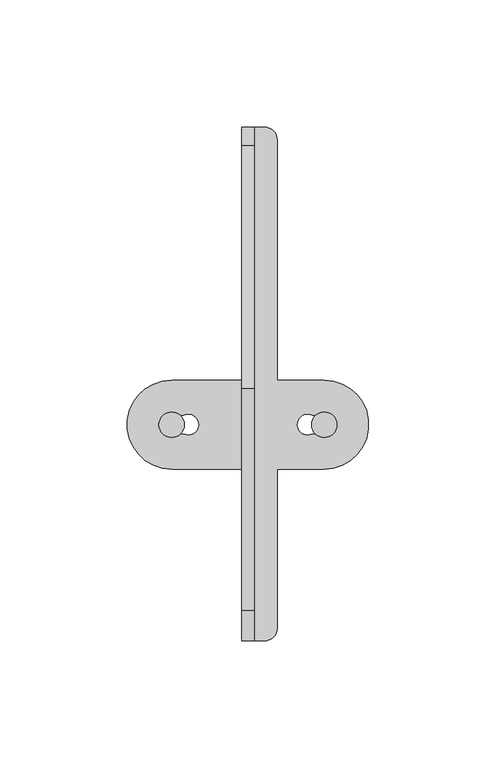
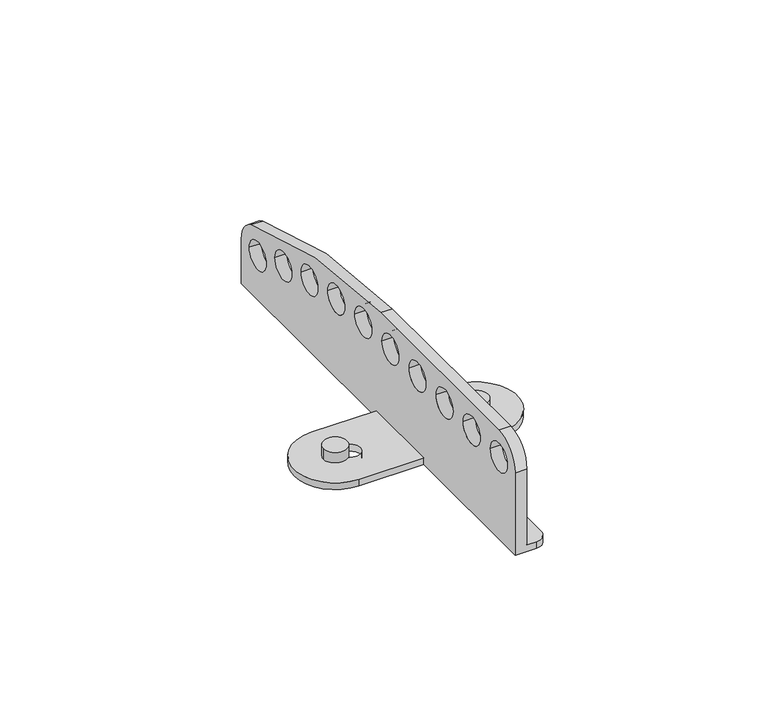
"""IFC4 building model written with IfcOpenShell, lengths in millimetres: proxy geometry, d&b E-Series E8 l E12 Flying Adapter : E8 l E12 Flying Adapter."""

from ifc_helpers import new_model, si_unit, point, frame, frame_2d, origin, place, context, project, spatial, polyline, circle_curve, trimmed, segment, composite_curve, outline, extrude, source, transform, mapped, element, save
from ifc_brep_helpers import plane_surface, cylinder_surface, revolved_surface, advanced_brep


def communication_devices_e63921f5(model_context):
    return source(origin(), model_context, "Body", "SolidModel", [
        advanced_brep(
        [(6.5, -85.0, 3.0), (11.5, -80.0, 3.0), (11.5, -17.5, 3.0), (30.0, -17.5, 3.0), (30.0, 17.5, 3.0), (11.5, 17.5, 3.0), (11.5, 112.0, 3.0), (6.5, 117.0, 3.0), (2.5, 117.0, 3.0), (2.5, -85.0, 3.0), (25.4364917, 3.5, 3.0), (31.5, 3.5, 3.0), (31.5, -3.5, 3.0), (25.4364917, -3.5, 3.0), (-2.5, 17.5, 3.0), (-30.0, 17.5, 3.0), (-30.0, -17.5, 3.0), (-2.5, -17.5, 3.0), (-25.4364917, 3.5, 3.0), (-25.4364917, -3.5, 3.0), (-31.5, -3.5, 3.0), (-31.5, 3.5, 3.0), (-2.5, -85.0, 0.0), (-2.5, -17.5, 0.0), (-30.0, -17.5, 0.0), (-30.0, 17.5, 0.0), (-2.5, 17.5, 0.0), (-2.5, 117.0, 0.0), (6.5, 117.0, 0.0), (11.5, 112.0, 0.0), (11.5, 17.5, 0.0), (30.0, 17.5, 0.0), (30.0, -17.5, 0.0), (11.5, -17.5, 0.0), (11.5, -80.0, 0.0), (6.5, -85.0, 0.0), (-25.4364917, 3.5, 0.0), (-31.5, 3.5, 0.0), (-31.5, -3.5, 0.0), (-25.4364917, -3.5, 0.0), (25.4364917, 3.5, 0.0), (25.4364917, -3.5, 0.0), (31.5, -3.5, 0.0), (31.5, 3.5, 0.0), (2.5, 117.0, 20.0416075), (2.5, 109.8627971, 30.8118727), (2.5, 14.1313666, 49.2328622), (2.5, -73.0, 49.2328622), (2.5, -85.0, 37.2328622), (2.5, 33.2045121, 37.1372648), (2.5, 20.7045121, 37.1372648), (2.5, 53.139556, 35.5325315), (2.5, 40.639556, 35.5325315), (2.5, 72.8873007, 32.045765), (2.5, 60.3873007, 32.045765), (2.5, 92.1826621, 26.7881623), (2.5, 79.6826621, 26.7881623), (2.5, 111.049806, 19.9580874), (2.5, 98.549806, 19.9580874), (2.5, 13.2045121, 37.1372648), (2.5, 0.7045121, 37.1372648), (2.5, -6.7954879, 37.1372648), (2.5, -19.2954879, 37.1372648), (2.5, -26.7954879, 37.1372648), (2.5, -39.2954879, 37.1372648), (2.5, -46.7954879, 37.1372648), (2.5, -59.2954879, 37.1372648), (2.5, -66.7954879, 37.1372648), (2.5, -79.2954879, 37.1372648), (-2.5, -85.0, 37.2328622), (-2.5, -73.0, 49.2328622), (-2.5, 14.1313666, 49.2328622), (-2.5, 109.8627971, 30.8118727), (-2.5, 117.0, 20.0416075), (-2.5, 33.2045121, 37.1372648), (-2.5, 20.7045121, 37.1372648), (-2.5, 53.139556, 35.5325315), (-2.5, 40.639556, 35.5325315), (-2.5, 72.8873007, 32.045765), (-2.5, 60.3873007, 32.045765), (-2.5, 92.1826621, 26.7881623), (-2.5, 79.6826621, 26.7881623), (-2.5, 111.049806, 19.9580874), (-2.5, 98.549806, 19.9580874), (-2.5, 13.2045121, 37.1372648), (-2.5, 0.7045121, 37.1372648), (-2.5, -6.7954879, 37.1372648), (-2.5, -19.2954879, 37.1372648), (-2.5, -26.7954879, 37.1372648), (-2.5, -39.2954879, 37.1372648), (-2.5, -46.7954879, 37.1372648), (-2.5, -59.2954879, 37.1372648), (-2.5, -66.7954879, 37.1372648), (-2.5, -79.2954879, 37.1372648)],
        [
            (0, 1, circle_curve(frame((6.5, -80.0, 3.0), z_axis=(0.0, 0.0, 1.0), x_axis=(1.0, 0.0, 0.0)), 5.0)),
            (1, 2),
            (2, 3),
            (3, 4, circle_curve(frame((30.0, 0.0, 3.0), z_axis=(0.0, 0.0, 1.0), x_axis=(1.0, 0.0, 0.0)), 17.5)),
            (4, 5),
            (5, 6),
            (6, 7, circle_curve(frame((6.5, 112.0, 3.0), z_axis=(0.0, 0.0, 1.0), x_axis=(1.0, 0.0, 0.0)), 5.0)),
            (7, 8),
            (8, 9),
            (9, 0),
            (10, 11),
            (11, 12, circle_curve(frame((31.5, 0.0, 3.0), z_axis=(0.0, 0.0, -1.0), x_axis=(-1.0, 0.0, 0.0)), 3.5)),
            (12, 13),
            (13, 10, circle_curve(frame((23.4436834, 0.0, 3.0), z_axis=(0.0, 0.0, -1.0), x_axis=(-1.0, 0.0, 0.0)), 4.0275656)),
            (14, 15),
            (15, 16, circle_curve(frame((-30.0, 0.0, 3.0), z_axis=(0.0, 0.0, 1.0), x_axis=(1.0, 0.0, 0.0)), 17.5)),
            (16, 17),
            (17, 14),
            (18, 19, circle_curve(frame((-23.4436834, 0.0, 3.0), z_axis=(0.0, 0.0, -1.0), x_axis=(1.0, 0.0, 0.0)), 4.0275656)),
            (19, 20),
            (20, 21, circle_curve(frame((-31.5, 0.0, 3.0), z_axis=(0.0, 0.0, -1.0), x_axis=(1.0, 0.0, 0.0)), 3.5)),
            (21, 18),
            (22, 23),
            (23, 24),
            (24, 25, circle_curve(frame((-30.0, 0.0, 0.0), z_axis=(0.0, 0.0, -1.0), x_axis=(1.0, 0.0, 0.0)), 17.5)),
            (25, 26),
            (26, 27),
            (27, 28),
            (28, 29, circle_curve(frame((6.5, 112.0, 0.0), z_axis=(0.0, 0.0, -1.0), x_axis=(1.0, 0.0, 0.0)), 5.0)),
            (29, 30),
            (30, 31),
            (31, 32, circle_curve(frame((30.0, 0.0, 0.0), z_axis=(0.0, 0.0, -1.0), x_axis=(1.0, 0.0, 0.0)), 17.5)),
            (32, 33),
            (33, 34),
            (34, 35, circle_curve(frame((6.5, -80.0, 0.0), z_axis=(0.0, 0.0, -1.0), x_axis=(1.0, 0.0, 0.0)), 5.0)),
            (35, 22),
            (36, 37),
            (37, 38, circle_curve(frame((-31.5, 0.0, 0.0), z_axis=(0.0, 0.0, 1.0), x_axis=(1.0, 0.0, 0.0)), 3.5)),
            (38, 39),
            (39, 36, circle_curve(frame((-23.4436834, 0.0, 0.0), z_axis=(0.0, 0.0, 1.0), x_axis=(1.0, 0.0, 0.0)), 4.0275656)),
            (40, 41, circle_curve(frame((23.4436834, 0.0, 0.0), z_axis=(0.0, 0.0, 1.0), x_axis=(-1.0, 0.0, 0.0)), 4.0275656)),
            (41, 42),
            (42, 43, circle_curve(frame((31.5, 0.0, 0.0), z_axis=(0.0, 0.0, 1.0), x_axis=(-1.0, 0.0, 0.0)), 3.5)),
            (43, 40),
            (8, 44),
            (44, 45, circle_curve(frame((2.5, 105.3050628, 20.0416075), z_axis=(1.0, 0.0, 0.0), x_axis=(0.0, -1.0, 0.0)), 11.6949372)),
            (45, 46, circle_curve(frame((2.5, 14.1313666, -208.729384), z_axis=(1.0, 0.0, 0.0), x_axis=(0.0, -1.0, 0.0)), 257.9622462)),
            (46, 47),
            (47, 48, circle_curve(frame((2.5, -73.0, 37.2328622), z_axis=(1.0, 0.0, 0.0), x_axis=(0.0, -1.0, 0.0)), 12.0)),
            (48, 9),
            (49, 50, circle_curve(frame((2.5, 26.9545121, 37.1372648), z_axis=(-1.0, 0.0, 0.0), x_axis=(0.0, -1.0, 0.0)), 6.25)),
            (50, 49, circle_curve(frame((2.5, 26.9545121, 37.1372648), z_axis=(-1.0, 0.0, 0.0), x_axis=(0.0, -1.0, 0.0)), 6.25)),
            (51, 52, circle_curve(frame((2.5, 46.889556, 35.5325315), z_axis=(-1.0, 0.0, 0.0), x_axis=(0.0, -1.0, 0.0)), 6.25)),
            (52, 51, circle_curve(frame((2.5, 46.889556, 35.5325315), z_axis=(-1.0, 0.0, 0.0), x_axis=(0.0, -1.0, 0.0)), 6.25)),
            (53, 54, circle_curve(frame((2.5, 66.6373007, 32.045765), z_axis=(-1.0, 0.0, 0.0), x_axis=(0.0, -1.0, 0.0)), 6.25)),
            (54, 53, circle_curve(frame((2.5, 66.6373007, 32.045765), z_axis=(-1.0, 0.0, 0.0), x_axis=(0.0, -1.0, 0.0)), 6.25)),
            (55, 56, circle_curve(frame((2.5, 85.9326621, 26.7881623), z_axis=(-1.0, 0.0, 0.0), x_axis=(0.0, -1.0, 0.0)), 6.25)),
            (56, 55, circle_curve(frame((2.5, 85.9326621, 26.7881623), z_axis=(-1.0, 0.0, 0.0), x_axis=(0.0, -1.0, 0.0)), 6.25)),
            (57, 58, circle_curve(frame((2.5, 104.799806, 19.9580874), z_axis=(-1.0, 0.0, 0.0), x_axis=(0.0, -1.0, 0.0)), 6.25)),
            (58, 57, circle_curve(frame((2.5, 104.799806, 19.9580874), z_axis=(-1.0, 0.0, 0.0), x_axis=(0.0, -1.0, 0.0)), 6.25)),
            (59, 60, circle_curve(frame((2.5, 6.9545121, 37.1372648), z_axis=(-1.0, 0.0, 0.0), x_axis=(0.0, -1.0, 0.0)), 6.25)),
            (60, 59, circle_curve(frame((2.5, 6.9545121, 37.1372648), z_axis=(-1.0, 0.0, 0.0), x_axis=(0.0, -1.0, 0.0)), 6.25)),
            (61, 62, circle_curve(frame((2.5, -13.0454879, 37.1372648), z_axis=(-1.0, 0.0, 0.0), x_axis=(0.0, -1.0, 0.0)), 6.25)),
            (62, 61, circle_curve(frame((2.5, -13.0454879, 37.1372648), z_axis=(-1.0, 0.0, 0.0), x_axis=(0.0, -1.0, 0.0)), 6.25)),
            (63, 64, circle_curve(frame((2.5, -33.0454879, 37.1372648), z_axis=(-1.0, 0.0, 0.0), x_axis=(0.0, -1.0, 0.0)), 6.25)),
            (64, 63, circle_curve(frame((2.5, -33.0454879, 37.1372648), z_axis=(-1.0, 0.0, 0.0), x_axis=(0.0, -1.0, 0.0)), 6.25)),
            (65, 66, circle_curve(frame((2.5, -53.0454879, 37.1372648), z_axis=(-1.0, 0.0, 0.0), x_axis=(0.0, -1.0, 0.0)), 6.25)),
            (66, 65, circle_curve(frame((2.5, -53.0454879, 37.1372648), z_axis=(-1.0, 0.0, 0.0), x_axis=(0.0, -1.0, 0.0)), 6.25)),
            (67, 68, circle_curve(frame((2.5, -73.0454879, 37.1372648), z_axis=(-1.0, 0.0, 0.0), x_axis=(0.0, -1.0, 0.0)), 6.25)),
            (68, 67, circle_curve(frame((2.5, -73.0454879, 37.1372648), z_axis=(-1.0, 0.0, 0.0), x_axis=(0.0, -1.0, 0.0)), 6.25)),
            (69, 70, circle_curve(frame((-2.5, -73.0, 37.2328622), z_axis=(-1.0, 0.0, 0.0), x_axis=(0.0, -1.0, 0.0)), 12.0)),
            (70, 71),
            (71, 72, circle_curve(frame((-2.5, 14.1313666, -208.729384), z_axis=(-1.0, 0.0, 0.0), x_axis=(0.0, -1.0, 0.0)), 257.9622462)),
            (72, 73, circle_curve(frame((-2.5, 105.3050628, 20.0416075), z_axis=(-1.0, 0.0, 0.0), x_axis=(0.0, -1.0, 0.0)), 11.6949372)),
            (73, 27),
            (26, 14),
            (17, 23),
            (22, 69),
            (74, 75, circle_curve(frame((-2.5, 26.9545121, 37.1372648), z_axis=(1.0, 0.0, 0.0), x_axis=(0.0, -1.0, 0.0)), 6.25)),
            (75, 74, circle_curve(frame((-2.5, 26.9545121, 37.1372648), z_axis=(1.0, 0.0, 0.0), x_axis=(0.0, -1.0, 0.0)), 6.25)),
            (76, 77, circle_curve(frame((-2.5, 46.889556, 35.5325315), z_axis=(1.0, 0.0, 0.0), x_axis=(0.0, -1.0, 0.0)), 6.25)),
            (77, 76, circle_curve(frame((-2.5, 46.889556, 35.5325315), z_axis=(1.0, 0.0, 0.0), x_axis=(0.0, -1.0, 0.0)), 6.25)),
            (78, 79, circle_curve(frame((-2.5, 66.6373007, 32.045765), z_axis=(1.0, 0.0, 0.0), x_axis=(0.0, -1.0, 0.0)), 6.25)),
            (79, 78, circle_curve(frame((-2.5, 66.6373007, 32.045765), z_axis=(1.0, 0.0, 0.0), x_axis=(0.0, -1.0, 0.0)), 6.25)),
            (80, 81, circle_curve(frame((-2.5, 85.9326621, 26.7881623), z_axis=(1.0, 0.0, 0.0), x_axis=(0.0, -1.0, 0.0)), 6.25)),
            (81, 80, circle_curve(frame((-2.5, 85.9326621, 26.7881623), z_axis=(1.0, 0.0, 0.0), x_axis=(0.0, -1.0, 0.0)), 6.25)),
            (82, 83, circle_curve(frame((-2.5, 104.799806, 19.9580874), z_axis=(1.0, 0.0, 0.0), x_axis=(0.0, -1.0, 0.0)), 6.25)),
            (83, 82, circle_curve(frame((-2.5, 104.799806, 19.9580874), z_axis=(1.0, 0.0, 0.0), x_axis=(0.0, -1.0, 0.0)), 6.25)),
            (84, 85, circle_curve(frame((-2.5, 6.9545121, 37.1372648), z_axis=(1.0, 0.0, 0.0), x_axis=(0.0, -1.0, 0.0)), 6.25)),
            (85, 84, circle_curve(frame((-2.5, 6.9545121, 37.1372648), z_axis=(1.0, 0.0, 0.0), x_axis=(0.0, -1.0, 0.0)), 6.25)),
            (86, 87, circle_curve(frame((-2.5, -13.0454879, 37.1372648), z_axis=(1.0, 0.0, 0.0), x_axis=(0.0, -1.0, 0.0)), 6.25)),
            (87, 86, circle_curve(frame((-2.5, -13.0454879, 37.1372648), z_axis=(1.0, 0.0, 0.0), x_axis=(0.0, -1.0, 0.0)), 6.25)),
            (88, 89, circle_curve(frame((-2.5, -33.0454879, 37.1372648), z_axis=(1.0, 0.0, 0.0), x_axis=(0.0, -1.0, 0.0)), 6.25)),
            (89, 88, circle_curve(frame((-2.5, -33.0454879, 37.1372648), z_axis=(1.0, 0.0, 0.0), x_axis=(0.0, -1.0, 0.0)), 6.25)),
            (90, 91, circle_curve(frame((-2.5, -53.0454879, 37.1372648), z_axis=(1.0, 0.0, 0.0), x_axis=(0.0, -1.0, 0.0)), 6.25)),
            (91, 90, circle_curve(frame((-2.5, -53.0454879, 37.1372648), z_axis=(1.0, 0.0, 0.0), x_axis=(0.0, -1.0, 0.0)), 6.25)),
            (92, 93, circle_curve(frame((-2.5, -73.0454879, 37.1372648), z_axis=(1.0, 0.0, 0.0), x_axis=(0.0, -1.0, 0.0)), 6.25)),
            (93, 92, circle_curve(frame((-2.5, -73.0454879, 37.1372648), z_axis=(1.0, 0.0, 0.0), x_axis=(0.0, -1.0, 0.0)), 6.25)),
            (49, 74),
            (75, 50),
            (51, 76),
            (77, 52),
            (53, 78),
            (79, 54),
            (55, 80),
            (81, 56),
            (57, 82),
            (83, 58),
            (7, 28),
            (73, 44),
            (72, 45),
            (46, 71),
            (70, 47),
            (69, 48),
            (35, 0),
            (59, 84),
            (85, 60),
            (61, 86),
            (87, 62),
            (63, 88),
            (89, 64),
            (65, 90),
            (91, 66),
            (67, 92),
            (93, 68),
            (34, 1),
            (33, 2),
            (32, 3),
            (31, 4),
            (30, 5),
            (29, 6),
            (25, 15),
            (24, 16),
            (18, 36),
            (39, 19),
            (38, 20),
            (37, 21),
            (10, 40),
            (43, 11),
            (42, 12),
            (41, 13),
        ],
        [
            plane_surface(frame((6.5, -85.0, 3.0), z_axis=(0.0, 0.0, 1.0), x_axis=(1.0, 0.0, 0.0))),
            plane_surface(frame((6.5, -85.0, 0.0), z_axis=(0.0, 0.0, -1.0), x_axis=(-1.0, 0.0, 0.0))),
            plane_surface(frame((2.5, 20.7045121, 37.1372648), z_axis=(1.0, 0.0, 0.0), x_axis=(0.0, 0.0, 1.0))),
            plane_surface(frame((-2.5, 20.7045121, 37.1372648), z_axis=(-1.0, 0.0, 0.0), x_axis=(0.0, 0.0, -1.0))),
            revolved_surface(polyline([(-2.5, 20.7045121, 37.1372648), (2.5, 20.7045121, 37.1372648)]), (-2.5, 26.9545121, 37.1372648), (-1.0, 0.0, 0.0)),
            revolved_surface(polyline([(-2.5, 40.639556, 35.5325315), (2.5, 40.639556, 35.5325315)]), (0.0, 46.889556, 35.5325315), (-1.0, 0.0, 0.0)),
            revolved_surface(polyline([(-2.5, 60.3873007, 32.045765), (2.5, 60.3873007, 32.045765)]), (0.0, 66.6373007, 32.045765), (-1.0, 0.0, 0.0)),
            revolved_surface(polyline([(-2.5, 79.6826621, 26.7881623), (2.5, 79.6826621, 26.7881623)]), (0.0, 85.9326621, 26.7881623), (-1.0, 0.0, 0.0)),
            revolved_surface(polyline([(-2.5, 98.549806, 19.9580874), (2.5, 98.549806, 19.9580874)]), (0.0, 104.799806, 19.9580874), (-1.0, 0.0, 0.0)),
            plane_surface(frame((2.5, 117.0, 3.0), z_axis=(0.0, 1.0, 0.0), x_axis=(-1.0, 0.0, 0.0))),
            cylinder_surface(frame((0.0, 105.3050628, 20.0416075), z_axis=(1.0, 0.0, 0.0), x_axis=(0.0, -1.0, 0.0)), 11.6949372),
            plane_surface(frame((2.5, 14.1313666, 49.2328622), z_axis=(0.0, 0.0, 1.0), x_axis=(-1.0, 0.0, 0.0))),
            cylinder_surface(frame((0.0, -73.0, 37.2328622), z_axis=(1.0, 0.0, 0.0), x_axis=(0.0, -1.0, 0.0)), 12.0),
            plane_surface(frame((2.5, -85.0, 37.2328622), z_axis=(0.0, -1.0, 0.0), x_axis=(-1.0, 0.0, 0.0))),
            revolved_surface(polyline([(-2.5, 0.7045120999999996, 37.1372648), (2.5, 0.7045120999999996, 37.1372648)]), (0.0, 6.9545121, 37.1372648), (-1.0, 0.0, 0.0)),
            revolved_surface(polyline([(-2.5, -19.295487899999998, 37.1372648), (2.5, -19.295487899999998, 37.1372648)]), (0.0, -13.0454879, 37.1372648), (-1.0, 0.0, 0.0)),
            revolved_surface(polyline([(-2.5, -39.2954879, 37.1372648), (2.5, -39.2954879, 37.1372648)]), (0.0, -33.0454879, 37.1372648), (-1.0, 0.0, 0.0)),
            revolved_surface(polyline([(-2.5, -59.2954879, 37.1372648), (2.5, -59.2954879, 37.1372648)]), (0.0, -53.0454879, 37.1372648), (-1.0, 0.0, 0.0)),
            revolved_surface(polyline([(-2.5, -79.2954879, 37.1372648), (2.5, -79.2954879, 37.1372648)]), (0.0, -73.0454879, 37.1372648), (-1.0, 0.0, 0.0)),
            cylinder_surface(frame((6.5, -80.0, 0.0), z_axis=(0.0, 0.0, 1.0), x_axis=(1.0, 0.0, 0.0)), 5.0),
            plane_surface(frame((11.5, -80.0, 3.0), z_axis=(1.0, 0.0, 0.0), x_axis=(0.0, 0.0, -1.0))),
            plane_surface(frame((11.5, -17.5, 3.0), z_axis=(0.0, -1.0, 0.0), x_axis=(0.0, 0.0, -1.0))),
            cylinder_surface(frame((30.0, 0.0, 0.0), z_axis=(0.0, 0.0, 1.0), x_axis=(1.0, 0.0, 0.0)), 17.5),
            plane_surface(frame((30.0, 17.5, 3.0), z_axis=(0.0, 1.0, 0.0), x_axis=(0.0, 0.0, -1.0))),
            plane_surface(frame((11.5, 17.5, 3.0), z_axis=(1.0, 0.0, 0.0), x_axis=(0.0, 0.0, -1.0))),
            cylinder_surface(frame((6.5, 112.0, 0.0), z_axis=(0.0, 0.0, 1.0), x_axis=(1.0, 0.0, 0.0)), 5.0),
            plane_surface(frame((-2.5, 17.5, 3.0), z_axis=(0.0, 1.0, 0.0), x_axis=(0.0, 0.0, -1.0))),
            cylinder_surface(frame((-30.0, 0.0, 0.0), z_axis=(0.0, 0.0, 1.0), x_axis=(1.0, 0.0, 0.0)), 17.5),
            plane_surface(frame((-30.0, -17.5, 3.0), z_axis=(0.0, -1.0, 0.0), x_axis=(0.0, 0.0, -1.0))),
            revolved_surface(polyline([(-19.416117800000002, 0.0, 0.0), (-19.416117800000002, 0.0, 3.0)]), (-23.4436834, 0.0, 0.0), (0.0, 0.0, -1.0)),
            plane_surface(frame((-25.4364917, -3.5, 3.0), z_axis=(0.0, 1.0, 0.0), x_axis=(0.0, 0.0, -1.0))),
            revolved_surface(polyline([(-28.0, 0.0, 0.0), (-28.0, 0.0, 3.0)]), (-31.5, 0.0, 0.0), (0.0, 0.0, -1.0)),
            plane_surface(frame((-31.5, 3.5, 3.0), z_axis=(0.0, -1.0, 0.0), x_axis=(0.0, 0.0, -1.0))),
            plane_surface(frame((25.4364917, 3.5, 3.0), z_axis=(0.0, -1.0, 0.0), x_axis=(0.0, 0.0, -1.0))),
            revolved_surface(polyline([(28.0, 0.0, 0.0), (28.0, 0.0, 3.0)]), (31.5, 0.0, 0.0), (0.0, 0.0, -1.0)),
            plane_surface(frame((31.5, -3.5, 3.0), z_axis=(0.0, 1.0, 0.0), x_axis=(0.0, 0.0, -1.0))),
            revolved_surface(polyline([(19.416117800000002, 0.0, 0.0), (19.416117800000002, 0.0, 3.0)]), (23.4436834, 0.0, 0.0), (0.0, 0.0, -1.0)),
            cylinder_surface(frame((0.0, 14.1313666, -208.729384), z_axis=(1.0, 0.0, 0.0), x_axis=(0.0, -1.0, 0.0)), 257.9622462),
        ],
        [
            (0, [[1, 2, 3, 4, 5, 6, 7, 8, 9, 10], [11, 12, 13, 14]]),
            (0, [[15, 16, 17, 18], [19, 20, 21, 22]]),
            (1, [[23, 24, 25, 26, 27, 28, 29, 30, 31, 32, 33, 34, 35, 36], [37, 38, 39, 40], [41, 42, 43, 44]]),
            (2, [[45, 46, 47, 48, 49, 50, -9], [51, 52], [53, 54], [55, 56], [57, 58], [59, 60], [61, 62], [63, 64], [65, 66], [67, 68], [69, 70]]),
            (3, [[71, 72, 73, 74, 75, -27, 76, -18, 77, -23, 78], [79, 80], [81, 82], [83, 84], [85, 86], [87, 88], [89, 90], [91, 92], [93, 94], [95, 96], [97, 98]]),
            (4, [[-51, 99, -80, 100]]),
            (4, [[-52, -100, -79, -99]]),
            (5, [[-53, 101, -82, 102]]),
            (5, [[-54, -102, -81, -101]]),
            (6, [[-55, 103, -84, 104]]),
            (6, [[-56, -104, -83, -103]]),
            (7, [[-57, 105, -86, 106]]),
            (7, [[-58, -106, -85, -105]]),
            (8, [[-59, 107, -88, 108]]),
            (8, [[-60, -108, -87, -107]]),
            (9, [[-45, -8, 109, -28, -75, 110]]),
            (10, [[-46, -110, -74, 111]]),
            (11, [[-48, 112, -72, 113]]),
            (12, [[-49, -113, -71, 114]]),
            (13, [[-50, -114, -78, -36, 115, -10]]),
            (14, [[-61, 116, -90, 117]]),
            (14, [[-62, -117, -89, -116]]),
            (15, [[-63, 118, -92, 119]]),
            (15, [[-64, -119, -91, -118]]),
            (16, [[-65, 120, -94, 121]]),
            (16, [[-66, -121, -93, -120]]),
            (17, [[-67, 122, -96, 123]]),
            (17, [[-68, -123, -95, -122]]),
            (18, [[-69, 124, -98, 125]]),
            (18, [[-70, -125, -97, -124]]),
            (19, [[-1, -115, -35, 126]]),
            (20, [[-2, -126, -34, 127]]),
            (21, [[-3, -127, -33, 128]]),
            (22, [[-4, -128, -32, 129]]),
            (23, [[-5, -129, -31, 130]]),
            (24, [[-6, -130, -30, 131]]),
            (25, [[-7, -131, -29, -109]]),
            (26, [[-15, -76, -26, 132]]),
            (27, [[-16, -132, -25, 133]]),
            (28, [[-17, -133, -24, -77]]),
            (29, [[-19, 134, -40, 135]]),
            (30, [[-20, -135, -39, 136]]),
            (31, [[-21, -136, -38, 137]]),
            (32, [[-22, -137, -37, -134]]),
            (33, [[-11, 138, -44, 139]]),
            (34, [[-12, -139, -43, 140]]),
            (35, [[-13, -140, -42, 141]]),
            (36, [[-14, -141, -41, -138]]),
            (37, [[-47, -111, -73, -112]]),
        ],
    ),
        extrude(outline(composite_curve([segment(trimmed(circle_curve(frame_2d((-30.0, 0.0)), 5.0), [point((-35.0, 0.0))], [point((-25.0, 0.0))], False, "CARTESIAN"), True, "CONTINUOUS"), segment(trimmed(circle_curve(frame_2d((-30.0, 0.0)), 5.0), [point((-25.0, 0.0))], [point((-35.0, 0.0))], False, "CARTESIAN"), True, "CONTINUOUS")], self_intersect=False)), frame((0.0, 0.0, 3.0), z_axis=(0.0, 0.0, 1.0), x_axis=(1.0, 0.0, 0.0)), (0.0, 0.0, 1.0), 5.0),
        extrude(outline(composite_curve([segment(trimmed(circle_curve(frame_2d((30.0, 0.0)), 5.0), [point((35.0, 0.0))], [point((25.0, 0.0))], False, "CARTESIAN"), True, "CONTINUOUS"), segment(trimmed(circle_curve(frame_2d((30.0, 0.0)), 5.0), [point((25.0, 0.0))], [point((35.0, 0.0))], False, "CARTESIAN"), True, "CONTINUOUS")], self_intersect=False)), frame((0.0, 0.0, 3.0), z_axis=(0.0, 0.0, 1.0), x_axis=(1.0, 0.0, 0.0)), (0.0, 0.0, 1.0), 5.0),
    ])


if __name__ == "__main__":
    model = new_model("IFC4")
    model_context = context("Model", 3, world=origin())
    ifc_project = project(units=[si_unit("LENGTHUNIT", "METRE", prefix="MILLI")], contexts=[model_context])
    site = spatial("IfcSite", under=ifc_project)
    building = spatial("IfcBuilding", under=site)
    placement = place(None, origin())
    communication_devices_shape = communication_devices_e63921f5(model_context)
    element("IfcBuildingElementProxy", 1, Name="d&b E-Series E8 l E12 Flying Adapter : E8 l E12 Flying Adapter", ObjectType="d&b E-Series E8 l E12 Flying Adapter : E8 l E12 Flying Adapter", at=placement, inside=building, context=model_context, shape_type="MappedRepresentation", body=[
        mapped(communication_devices_shape, transform((0.0, 0.0, 0.0), x_axis=(1.0, 0.0, 0.0), y_axis=(0.0, 1.0, 0.0), z_axis=(0.0, 0.0, 1.0))),
    ])
    save(model, "model.ifc")
